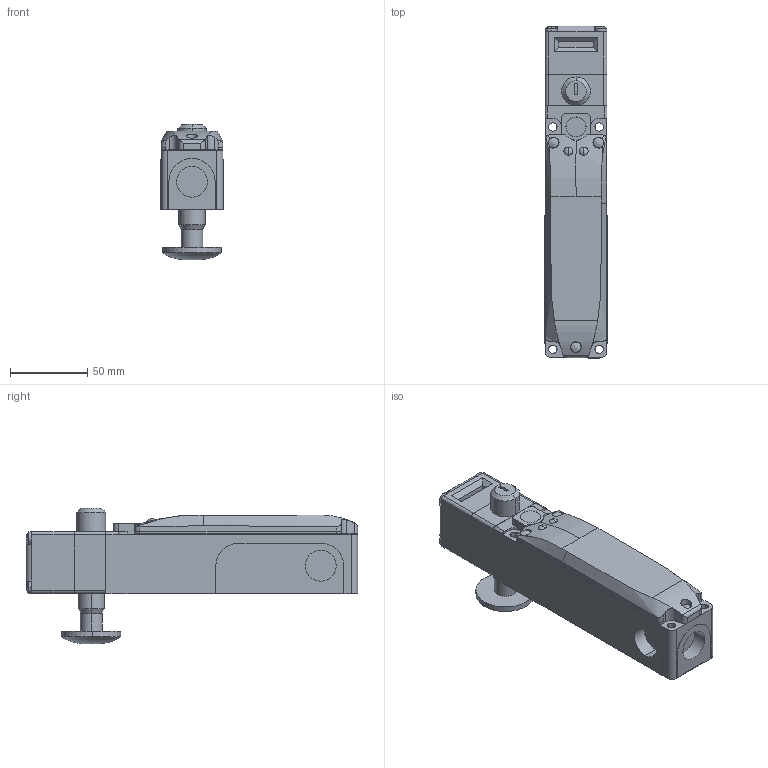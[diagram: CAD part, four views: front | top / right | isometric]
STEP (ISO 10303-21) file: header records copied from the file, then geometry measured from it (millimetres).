
FILE_DESCRIPTION (( 'STEP AP203' ), '1' );
FILE_NAME ('ZF_STEP_FY xxxD6DxA.STEP', '2022-05-05T15:50:38', ( '' ), ( '' ), 'SwSTEP 2.0', 'SolidWorks 2020', '' );
FILE_SCHEMA (( 'CONFIG_CONTROL_DESIGN' ));
Length unit declared in the file: millimetre
Products named in the file (10): FY_3dweb_sblocco_D6x_default; FY_3dweb_testa_default; FY_3dweb_fungo_default; FY_3dweb_sblocco_D6x; ZF_STEP_FY xxxD6DxA; FY_3dweb_custodia_Senza sblocco a cacciavite; FY_3dweb_coperchio cieco_con led; FY_3dweb_coperchio_cieco con led; FY_3dweb_testa_TGD1
Assembly tree (9 placements, depth 3):
  ZF_STEP_FY xxxD6DxA
    FY_3dweb_custodia_Senza sblocco a cacciavite
      FY_3dweb_custodia_Senza sblocco a cacciavite
    FY_3dweb_sblocco_D6x_default
      FY_3dweb_sblocco_D6x
      FY_3dweb_fungo_default
    FY_3dweb_testa_default
      FY_3dweb_testa_TGD1
    FY_3dweb_coperchio cieco_con led
      FY_3dweb_coperchio_cieco con led
Bounding box: 40.4 x 215 x 87.7 mm (x, y, z)
Volume: 393600.8 mm3; surface area: 72359.7 mm2
Topology: 5 solids, 5 shells, 408 faces, 1044 edges, 682 vertices
Faces by surface type: plane 232, cylinder 103, bspline 51, sphere 12, torus 6, cone 4
Entity records: 15128 total; most frequent: CARTESIAN_POINT 4416, ORIENTED_EDGE 2088, DIRECTION 1840, EDGE_CURVE 1044, VERTEX_POINT 682, LINE 668, VECTOR 668, AXIS2_PLACEMENT_3D 586
